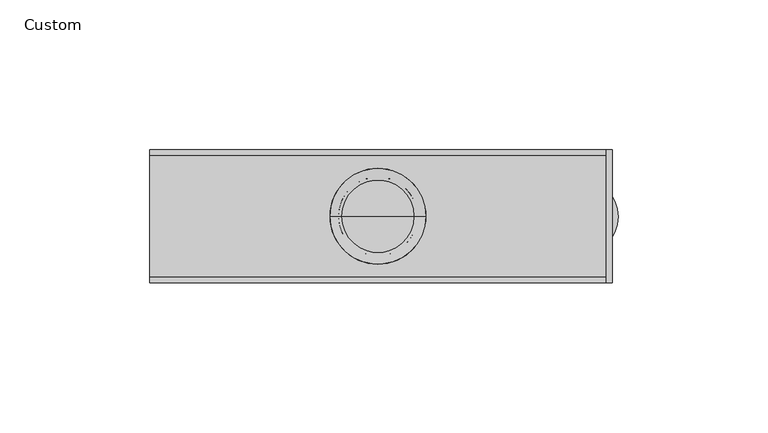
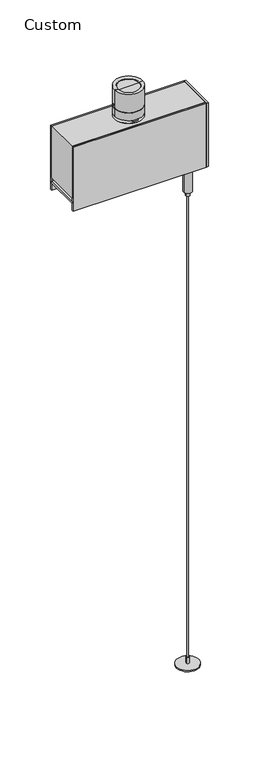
"""IFC4 building model written with IfcOpenShell, lengths in millimetres: light fixture geometry, Lighting-Pendant-Axis-Sculpt-Linear-Accent : Custom."""

from ifc_helpers import new_model, si_unit, point, frame, frame_2d, origin, origin_with_axes, place, context, project, spatial, polyline, circle_curve, ellipse_curve, trimmed, segment, composite_curve, outline, extrude, source, transform, mapped, element, save
from ifc_brep_helpers import plane_surface, cylinder_surface, revolved_surface, advanced_brep


def custom_30a6e671(model_context):
    return source(origin(), model_context, "Body", "SolidModel", [
        advanced_brep(
        [(-12.1749998, 0.0, 720.9971034), (12.1749998, 0.0, 720.9971034), (15.9999994, 0.0, 721.52002), (-15.9999994, 0.0, 721.52002), (-12.1749998, 0.0, 720.2033534), (12.1749998, 0.0, 720.2033534), (-14.0, 0.0, 720.2033534), (14.0, 0.0, 720.2033534), (-14.0, 0.0, 705.9033531), (14.0, 0.0, 705.9033531), (-12.4999997, 0.0, 705.9033531), (12.4999997, 0.0, 705.9033531), (-12.4999997, 0.0, 707.5033531), (12.4999997, 0.0, 707.5033531), (0.0, 0.0, 707.5033531), (-15.9999994, 0.0, 689.9033527), (15.9999994, 0.0, 689.9033527), (0.0, 0.0, 689.9033527), (-15.9999994, 0.0, 698.9033533), (15.9999994, 0.0, 698.9033533), (-15.2062494, 0.0, 698.9033533), (15.2062494, 0.0, 698.9033533), (-15.2062494, 0.0, 699.6971033), (15.2062494, 0.0, 699.6971033), (-15.9999994, 0.0, 699.6971033), (15.9999994, 0.0, 699.6971033)],
        [
            (0, 1, circle_curve(frame((0.0, 0.0, 720.9971034), z_axis=(0.0, 0.0, -1.0), x_axis=(1.0, 0.0, 0.0)), 12.1749998)),
            (1, 2),
            (2, 3, circle_curve(frame((0.0, 0.0, 721.52002), z_axis=(0.0, 0.0, 1.0), x_axis=(1.0, 0.0, 0.0)), 15.9999994)),
            (3, 0),
            (1, 0, circle_curve(frame((0.0, 0.0, 720.9971034), z_axis=(0.0, 0.0, -1.0), x_axis=(1.0, 0.0, 0.0)), 12.1749998)),
            (3, 2, circle_curve(frame((0.0, 0.0, 721.52002), z_axis=(0.0, 0.0, 1.0), x_axis=(1.0, 0.0, 0.0)), 15.9999994)),
            (4, 5, circle_curve(frame((0.0, 0.0, 720.2033534), z_axis=(0.0, 0.0, -1.0), x_axis=(1.0, 0.0, 0.0)), 12.1749998)),
            (5, 1),
            (0, 4),
            (5, 4, circle_curve(frame((0.0, 0.0, 720.2033534), z_axis=(0.0, 0.0, -1.0), x_axis=(1.0, 0.0, 0.0)), 12.1749998)),
            (6, 7, circle_curve(frame((0.0, 0.0, 720.2033534), z_axis=(0.0, 0.0, -1.0), x_axis=(1.0, 0.0, 0.0)), 14.0)),
            (7, 5),
            (4, 6),
            (7, 6, circle_curve(frame((0.0, 0.0, 720.2033534), z_axis=(0.0, 0.0, -1.0), x_axis=(1.0, 0.0, 0.0)), 14.0)),
            (8, 9, circle_curve(frame((0.0, 0.0, 705.9033531), z_axis=(0.0, 0.0, -1.0), x_axis=(1.0, 0.0, 0.0)), 14.0)),
            (9, 7),
            (6, 8),
            (9, 8, circle_curve(frame((0.0, 0.0, 705.9033531), z_axis=(0.0, 0.0, -1.0), x_axis=(1.0, 0.0, 0.0)), 14.0)),
            (10, 11, circle_curve(frame((0.0, 0.0, 705.9033531), z_axis=(0.0, 0.0, -1.0), x_axis=(1.0, 0.0, 0.0)), 12.4999997)),
            (11, 9),
            (8, 10),
            (11, 10, circle_curve(frame((0.0, 0.0, 705.9033531), z_axis=(0.0, 0.0, -1.0), x_axis=(1.0, 0.0, 0.0)), 12.4999997)),
            (12, 13, circle_curve(frame((0.0, 0.0, 707.5033531), z_axis=(0.0, 0.0, -1.0), x_axis=(1.0, 0.0, 0.0)), 12.4999997)),
            (13, 11),
            (10, 12),
            (13, 12, circle_curve(frame((0.0, 0.0, 707.5033531), z_axis=(0.0, 0.0, -1.0), x_axis=(1.0, 0.0, 0.0)), 12.4999997)),
            (14, 13),
            (12, 14),
            (15, 16, circle_curve(frame((0.0, 0.0, 689.9033527), z_axis=(0.0, 0.0, -1.0), x_axis=(1.0, 0.0, 0.0)), 15.9999994)),
            (16, 17),
            (17, 15),
            (16, 15, circle_curve(frame((0.0, 0.0, 689.9033527), z_axis=(0.0, 0.0, -1.0), x_axis=(1.0, 0.0, 0.0)), 15.9999994)),
            (18, 19, circle_curve(frame((0.0, 0.0, 698.9033533), z_axis=(0.0, 0.0, -1.0), x_axis=(1.0, 0.0, 0.0)), 15.9999994)),
            (19, 16),
            (15, 18),
            (19, 18, circle_curve(frame((0.0, 0.0, 698.9033533), z_axis=(0.0, 0.0, -1.0), x_axis=(1.0, 0.0, 0.0)), 15.9999994)),
            (20, 21, circle_curve(frame((0.0, 0.0, 698.9033533), z_axis=(0.0, 0.0, -1.0), x_axis=(1.0, 0.0, 0.0)), 15.2062494)),
            (21, 19),
            (18, 20),
            (21, 20, circle_curve(frame((0.0, 0.0, 698.9033533), z_axis=(0.0, 0.0, -1.0), x_axis=(1.0, 0.0, 0.0)), 15.2062494)),
            (22, 23, circle_curve(frame((0.0, 0.0, 699.6971033), z_axis=(0.0, 0.0, -1.0), x_axis=(1.0, 0.0, 0.0)), 15.2062494)),
            (23, 21),
            (20, 22),
            (23, 22, circle_curve(frame((0.0, 0.0, 699.6971033), z_axis=(0.0, 0.0, -1.0), x_axis=(1.0, 0.0, 0.0)), 15.2062494)),
            (24, 25, circle_curve(frame((0.0, 0.0, 699.6971033), z_axis=(0.0, 0.0, -1.0), x_axis=(1.0, 0.0, 0.0)), 15.9999994)),
            (25, 23),
            (22, 24),
            (25, 24, circle_curve(frame((0.0, 0.0, 699.6971033), z_axis=(0.0, 0.0, -1.0), x_axis=(1.0, 0.0, 0.0)), 15.9999994)),
            (2, 25),
            (24, 3),
        ],
        [
            revolved_surface(polyline([(15.9999994, 0.0, 721.52002), (12.1749998, 0.0, 720.9971034)]), (0.0, 0.0, 2923.1350231), (0.0, 0.0, 1.0)),
            revolved_surface(polyline([(12.1749998, 0.0, 720.9971034), (12.1749998, 0.0, 720.2033533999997)]), (0.0, 0.0, 2923.1350231), (0.0, 0.0, 1.0)),
            plane_surface(frame((0.0, 0.0, 720.2033534), z_axis=(0.0, 0.0, -1.0), x_axis=(1.0, 0.0, 0.0))),
            revolved_surface(polyline([(14.0, 0.0, 720.2033533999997), (14.0, 0.0, 705.9033531)]), (0.0, 0.0, 2923.1350231), (0.0, 0.0, 1.0)),
            plane_surface(frame((0.0, 0.0, 705.9033531), z_axis=(0.0, 0.0, 1.0), x_axis=(1.0, 0.0, 0.0))),
            cylinder_surface(frame((0.0, 0.0, 2923.1350231), z_axis=(0.0, 0.0, 1.0), x_axis=(1.0, 0.0, 0.0)), 12.4999997),
            plane_surface(frame((0.0, 0.0, 707.5033531), z_axis=(0.0, 0.0, 1.0), x_axis=(1.0, 0.0, 0.0))),
            plane_surface(frame((0.0, 0.0, 689.9033527), z_axis=(0.0, 0.0, -1.0), x_axis=(1.0, 0.0, 0.0))),
            cylinder_surface(frame((0.0, 0.0, 2923.1350231), z_axis=(0.0, 0.0, 1.0), x_axis=(1.0, 0.0, 0.0)), 15.9999994),
            plane_surface(frame((0.0, 0.0, 698.9033533), z_axis=(0.0, 0.0, 1.0), x_axis=(1.0, 0.0, 0.0))),
            cylinder_surface(frame((0.0, 0.0, 2923.1350231), z_axis=(0.0, 0.0, 1.0), x_axis=(1.0, 0.0, 0.0)), 15.2062494),
            plane_surface(frame((0.0, 0.0, 699.6971033), z_axis=(0.0, 0.0, -1.0), x_axis=(1.0, 0.0, 0.0))),
        ],
        [
            (0, [[1, 2, 3, 4]]),
            (0, [[5, -4, 6, -2]]),
            (1, [[7, 8, -1, 9]]),
            (1, [[10, -9, -5, -8]]),
            (2, [[11, 12, -7, 13]]),
            (2, [[14, -13, -10, -12]]),
            (3, [[15, 16, -11, 17]]),
            (3, [[18, -17, -14, -16]]),
            (4, [[19, 20, -15, 21]]),
            (4, [[22, -21, -18, -20]]),
            (5, [[23, 24, -19, 25]]),
            (5, [[26, -25, -22, -24]]),
            (6, [[27, -23, 28]]),
            (6, [[-28, -26, -27]]),
            (7, [[29, 30, 31]]),
            (7, [[32, -31, -30]]),
            (8, [[33, 34, -29, 35]]),
            (8, [[36, -35, -32, -34]]),
            (9, [[37, 38, -33, 39]]),
            (9, [[40, -39, -36, -38]]),
            (10, [[41, 42, -37, 43]]),
            (10, [[44, -43, -40, -42]]),
            (11, [[45, 46, -41, 47]]),
            (11, [[48, -47, -44, -46]]),
            (8, [[-3, 49, -45, 50]]),
            (8, [[-6, -50, -48, -49]]),
        ],
    ),
        advanced_brep(
        [(-12.4525096, 0.0, 719.3533539), (12.4525096, 0.0, 719.3533539), (4.8863176, 0.0, 707.5033531), (-4.8863176, 0.0, 707.5033531), (-13.2500003, 0.0, 719.3533539), (13.2500003, 0.0, 719.3533539), (-13.2203172, 0.0, 720.2033534), (13.2203172, 0.0, 720.2033534), (0.0, 0.0, 720.2033534), (-3.7500001, 0.0, 713.5104959), (3.7500001, 0.0, 713.5104959), (0.0, 0.0, 711.9033531), (-3.959774, 0.0, 707.5033531), (3.959774, 0.0, 707.5033531)],
        [
            (0, 1, circle_curve(frame((0.0, 0.0, 719.3533539), z_axis=(0.0, 0.0, -1.0), x_axis=(1.0, 0.0, 0.0)), 12.4525096)),
            (1, 2, circle_curve(frame((-55.2491331, 0.0, 754.2401648), z_axis=(0.0, 1.0, 0.0), x_axis=(0.8889199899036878, 0.0, -0.4580624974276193)), 76.1616833)),
            (2, 3, circle_curve(frame((0.0, 0.0, 707.5033531), z_axis=(0.0, 0.0, 1.0), x_axis=(1.0, 0.0, 0.0)), 4.8863176)),
            (3, 0, circle_curve(frame((55.2491331, 0.0, 754.2401648), z_axis=(0.0, 1.0, 0.0), x_axis=(-0.8889199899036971, 0.0, -0.45806249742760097)), 76.1616833)),
            (1, 0, circle_curve(frame((0.0, 0.0, 719.3533539), z_axis=(0.0, 0.0, -1.0), x_axis=(1.0, 0.0, 0.0)), 12.4525096)),
            (3, 2, circle_curve(frame((0.0, 0.0, 707.5033531), z_axis=(0.0, 0.0, 1.0), x_axis=(1.0, 0.0, 0.0)), 4.8863176)),
            (4, 5, circle_curve(frame((0.0, 0.0, 719.3533539), z_axis=(0.0, 0.0, -1.0), x_axis=(1.0, 0.0, 0.0)), 13.2500003)),
            (5, 1),
            (0, 4),
            (5, 4, circle_curve(frame((0.0, 0.0, 719.3533539), z_axis=(0.0, 0.0, -1.0), x_axis=(1.0, 0.0, 0.0)), 13.2500003)),
            (6, 7, circle_curve(frame((0.0, 0.0, 720.2033534), z_axis=(0.0, 0.0, -1.0), x_axis=(1.0, 0.0, 0.0)), 13.2203172)),
            (7, 5),
            (4, 6),
            (7, 6, circle_curve(frame((0.0, 0.0, 720.2033534), z_axis=(0.0, 0.0, -1.0), x_axis=(1.0, 0.0, 0.0)), 13.2203172)),
            (8, 7),
            (6, 8),
            (9, 10, circle_curve(frame((0.0, 0.0, 713.5104959), z_axis=(0.0, 0.0, -1.0), x_axis=(1.0, 0.0, 0.0)), 3.7500001)),
            (10, 11, circle_curve(frame((0.0626217, 0.0, 716.9358075), z_axis=(0.0, 1.0, 0.0), x_axis=(0.732662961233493, 0.0, -0.6805916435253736)), 5.0328441)),
            (11, 9, circle_curve(frame((-0.0626217, 0.0, 716.9358075), z_axis=(0.0, 1.0, 0.0), x_axis=(-0.7326629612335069, 0.0, -0.6805916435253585)), 5.0328441)),
            (10, 9, circle_curve(frame((0.0, 0.0, 713.5104959), z_axis=(0.0, 0.0, -1.0), x_axis=(1.0, 0.0, 0.0)), 3.7500001)),
            (12, 13, circle_curve(frame((0.0, 0.0, 707.5033531), z_axis=(0.0, 0.0, -1.0), x_axis=(1.0, 0.0, 0.0)), 3.959774)),
            (13, 10),
            (9, 12),
            (13, 12, circle_curve(frame((0.0, 0.0, 707.5033531), z_axis=(0.0, 0.0, -1.0), x_axis=(1.0, 0.0, 0.0)), 3.959774)),
            (2, 13),
            (12, 3),
        ],
        [
            revolved_surface(trimmed(ellipse_curve(frame((-55.2491331, 0.0, 754.2401648), z_axis=(0.0, -1.0, 0.0), x_axis=(0.8889199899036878, 0.0, -0.4580624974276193)), 76.1616833, 76.1616833), [point((4.8863176, 0.0, 707.5033531))], [point((12.4525096, 0.0, 719.3533539))], True, "CARTESIAN"), (0.0, 0.0, 2923.1350231), (0.0, 0.0, 1.0)),
            plane_surface(frame((0.0, 0.0, 719.3533539), z_axis=(0.0, 0.0, -1.0), x_axis=(1.0, 0.0, 0.0))),
            revolved_surface(polyline([(13.2500003, 0.0, 719.3533539), (13.2203172, 0.0, 720.2033534)]), (0.0, 0.0, 2923.1350231), (0.0, 0.0, 1.0)),
            plane_surface(frame((0.0, 0.0, 720.2033534), z_axis=(0.0, 0.0, 1.0), x_axis=(1.0, 0.0, 0.0))),
            revolved_surface(trimmed(ellipse_curve(frame((0.0626217, 0.0, 716.9358075), z_axis=(0.0, -1.0, 0.0), x_axis=(0.732662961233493, 0.0, -0.6805916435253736)), 5.0328441, 5.0328441), [point((0.0, 0.0, 711.9033531))], [point((3.7500001, 0.0, 713.5104959))], True, "CARTESIAN"), (0.0, 0.0, 2923.1350231), (0.0, 0.0, 1.0)),
            revolved_surface(polyline([(3.7500001, 0.0, 713.5104959), (3.959774, 0.0, 707.5033531)]), (0.0, 0.0, 2923.1350231), (0.0, 0.0, 1.0)),
            plane_surface(frame((0.0, 0.0, 707.5033531), z_axis=(0.0, 0.0, -1.0), x_axis=(1.0, 0.0, 0.0))),
        ],
        [
            (0, [[1, 2, 3, 4]]),
            (0, [[5, -4, 6, -2]]),
            (1, [[7, 8, -1, 9]]),
            (1, [[10, -9, -5, -8]]),
            (2, [[11, 12, -7, 13]]),
            (2, [[14, -13, -10, -12]]),
            (3, [[15, -11, 16]]),
            (3, [[-16, -14, -15]]),
            (4, [[17, 18, 19]]),
            (4, [[20, -19, -18]]),
            (5, [[21, 22, -17, 23]]),
            (5, [[24, -23, -20, -22]]),
            (6, [[-3, 25, -21, 26]]),
            (6, [[-6, -26, -24, -25]]),
        ],
    ),
        extrude(outline(composite_curve([segment(trimmed(circle_curve(frame_2d((-9.525, 692.94502)), 3.9750181), [point((-13.5000181, 692.94502))], [point((-5.5499819, 692.94502))], False, "CARTESIAN"), True, "CONTINUOUS"), segment(polyline([(-5.5499819, 692.94502), (-5.5499819, 686.59502), (-13.5000181, 686.59502), (-13.5000181, 692.94502)]), True, "CONTINUOUS")], self_intersect=False)), frame((-2.9999793, 0.0, 0.0), z_axis=(1.0, 0.0, 0.0), x_axis=(0.0, 1.0, 0.0)), (0.0, 0.0, 1.0), 5.9999586),
        advanced_brep(
        [(0.0, 0.0, 648.4400175), (0.0, -10.1695708, 648.4400175), (0.0, 10.1695708, 648.4400175), (0.0, 15.9999994, 686.59502), (0.0, -15.9999994, 686.59502), (0.0, 0.0, 686.59502), (0.0, 15.9999994, 685.0950188), (0.0, -15.9999994, 685.0950188), (0.0, 10.1695708, 685.0950188), (0.0, -10.1695708, 685.0950188)],
        [
            (0, 1),
            (1, 2, circle_curve(frame((0.0, 0.0, 648.4400175), z_axis=(0.0, 0.0, -1.0), x_axis=(0.0, -1.0, 0.0)), 10.1695708)),
            (2, 0),
            (2, 1, circle_curve(frame((0.0, 0.0, 648.4400175), z_axis=(0.0, 0.0, -1.0), x_axis=(0.0, -1.0, 0.0)), 10.1695708)),
            (3, 4, circle_curve(frame((0.0, 0.0, 686.59502), z_axis=(0.0, 0.0, 1.0), x_axis=(0.0, -1.0, 0.0)), 15.9999994)),
            (4, 5),
            (5, 3),
            (4, 3, circle_curve(frame((0.0, 0.0, 686.59502), z_axis=(0.0, 0.0, 1.0), x_axis=(0.0, -1.0, 0.0)), 15.9999994)),
            (6, 7, circle_curve(frame((0.0, 0.0, 685.0950188), z_axis=(0.0, 0.0, 1.0), x_axis=(0.0, -1.0, 0.0)), 15.9999994)),
            (7, 4),
            (3, 6),
            (7, 6, circle_curve(frame((0.0, 0.0, 685.0950188), z_axis=(0.0, 0.0, 1.0), x_axis=(0.0, -1.0, 0.0)), 15.9999994)),
            (8, 9, circle_curve(frame((0.0, 0.0, 685.0950188), z_axis=(0.0, 0.0, 1.0), x_axis=(0.0, -1.0, 0.0)), 10.1695708)),
            (9, 7),
            (6, 8),
            (9, 8, circle_curve(frame((0.0, 0.0, 685.0950188), z_axis=(0.0, 0.0, 1.0), x_axis=(0.0, -1.0, 0.0)), 10.1695708)),
            (1, 9),
            (8, 2),
        ],
        [
            plane_surface(frame((0.0, 0.0, 648.4400175), z_axis=(0.0, 0.0, -1.0), x_axis=(0.0, -1.0, 0.0))),
            plane_surface(frame((0.0, 0.0, 686.59502), z_axis=(0.0, 0.0, 1.0), x_axis=(0.0, -1.0, 0.0))),
            cylinder_surface(frame((0.0, 0.0, 3036.7518143), z_axis=(0.0, 0.0, -1.0), x_axis=(0.0, -1.0, 0.0)), 15.9999994),
            plane_surface(frame((0.0, 0.0, 685.0950188), z_axis=(0.0, 0.0, -1.0), x_axis=(0.0, -1.0, 0.0))),
            cylinder_surface(frame((0.0, 0.0, 3036.7518143), z_axis=(0.0, 0.0, -1.0), x_axis=(0.0, -1.0, 0.0)), 10.1695708),
        ],
        [
            (0, [[1, 2, 3]]),
            (0, [[-3, 4, -1]]),
            (1, [[5, 6, 7]]),
            (1, [[8, -7, -6]]),
            (2, [[9, 10, -5, 11]]),
            (2, [[12, -11, -8, -10]]),
            (3, [[13, 14, -9, 15]]),
            (3, [[16, -15, -12, -14]]),
            (4, [[-2, 17, -13, 18]]),
            (4, [[-4, -18, -16, -17]]),
        ],
    ),
        advanced_brep(
        [(62.9920001, 0.0, 604.4810805), (72.1359999, 0.0, 604.4810805), (72.1359999, 0.0, 570.5474987), (62.9920001, 0.0, 570.5474987), (59.6677367, 0.0, 609.6), (75.4602633, 0.0, 609.6), (65.2780001, 0.0, 565.4674991), (69.8499999, 0.0, 565.4674991), (67.564, 0.0, 565.4674991), (65.2780001, 0.0, 570.5474987), (69.8499999, 0.0, 570.5474987), (59.6677367, 0.0, 618.0455013), (75.4602633, 0.0, 618.0455013), (67.564, 0.0, 618.0455013)],
        [
            (0, 1, circle_curve(frame((67.564, 0.0, 604.4810805), z_axis=(0.0, 0.0, -1.0), x_axis=(1.0, 0.0, 0.0)), 4.5719999)),
            (1, 2),
            (2, 3, circle_curve(frame((67.564, 0.0, 570.5474987), z_axis=(0.0, 0.0, 1.0), x_axis=(1.0, 0.0, 0.0)), 4.5719999)),
            (3, 0),
            (1, 0, circle_curve(frame((67.564, 0.0, 604.4810805), z_axis=(0.0, 0.0, -1.0), x_axis=(1.0, 0.0, 0.0)), 4.5719999)),
            (3, 2, circle_curve(frame((67.564, 0.0, 570.5474987), z_axis=(0.0, 0.0, 1.0), x_axis=(1.0, 0.0, 0.0)), 4.5719999)),
            (4, 5, circle_curve(frame((67.564, 0.0, 609.6), z_axis=(0.0, 0.0, -1.0), x_axis=(1.0, 0.0, 0.0)), 7.8962633)),
            (5, 1),
            (0, 4),
            (5, 4, circle_curve(frame((67.564, 0.0, 609.6), z_axis=(0.0, 0.0, -1.0), x_axis=(1.0, 0.0, 0.0)), 7.8962633)),
            (6, 7, circle_curve(frame((67.564, 0.0, 565.4674991), z_axis=(0.0, 0.0, -1.0), x_axis=(1.0, 0.0, 0.0)), 2.2859999)),
            (7, 8),
            (8, 6),
            (7, 6, circle_curve(frame((67.564, 0.0, 565.4674991), z_axis=(0.0, 0.0, -1.0), x_axis=(1.0, 0.0, 0.0)), 2.2859999)),
            (9, 10, circle_curve(frame((67.564, 0.0, 570.5474987), z_axis=(0.0, 0.0, -1.0), x_axis=(1.0, 0.0, 0.0)), 2.2859999)),
            (10, 7),
            (6, 9),
            (10, 9, circle_curve(frame((67.564, 0.0, 570.5474987), z_axis=(0.0, 0.0, -1.0), x_axis=(1.0, 0.0, 0.0)), 2.2859999)),
            (2, 10),
            (9, 3),
            (11, 12, circle_curve(frame((67.564, 0.0, 618.0455013), z_axis=(0.0, 0.0, -1.0), x_axis=(1.0, 0.0, 0.0)), 7.8962633)),
            (12, 5),
            (4, 11),
            (12, 11, circle_curve(frame((67.564, 0.0, 618.0455013), z_axis=(0.0, 0.0, -1.0), x_axis=(1.0, 0.0, 0.0)), 7.8962633)),
            (13, 12),
            (11, 13),
        ],
        [
            cylinder_surface(frame((67.564, 0.0, 2761.4581012), z_axis=(0.0, 0.0, 1.0), x_axis=(1.0, 0.0, 0.0)), 4.5719999),
            revolved_surface(polyline([(72.1359999, 0.0, 604.4810805), (75.4602633, 0.0, 609.6)]), (67.564, 0.0, 2761.4581012), (0.0, 0.0, 1.0)),
            plane_surface(frame((67.564, 0.0, 565.4674991), z_axis=(0.0, 0.0, -1.0), x_axis=(1.0, 0.0, 0.0))),
            cylinder_surface(frame((67.564, 0.0, 2761.4581012), z_axis=(0.0, 0.0, 1.0), x_axis=(1.0, 0.0, 0.0)), 2.2859999),
            plane_surface(frame((67.564, 0.0, 570.5474987), z_axis=(0.0, 0.0, -1.0), x_axis=(1.0, 0.0, 0.0))),
            cylinder_surface(frame((67.564, 0.0, 2761.4581012), z_axis=(0.0, 0.0, 1.0), x_axis=(1.0, 0.0, 0.0)), 7.8962633),
            plane_surface(frame((67.564, 0.0, 618.0455013), z_axis=(0.0, 0.0, 1.0), x_axis=(1.0, 0.0, 0.0))),
        ],
        [
            (0, [[1, 2, 3, 4]]),
            (0, [[5, -4, 6, -2]]),
            (1, [[7, 8, -1, 9]]),
            (1, [[10, -9, -5, -8]]),
            (2, [[11, 12, 13]]),
            (2, [[14, -13, -12]]),
            (3, [[15, 16, -11, 17]]),
            (3, [[18, -17, -14, -16]]),
            (4, [[-3, 19, -15, 20]]),
            (4, [[-6, -20, -18, -19]]),
            (5, [[21, 22, -7, 23]]),
            (5, [[24, -23, -10, -22]]),
            (6, [[25, -21, 26]]),
            (6, [[-26, -24, -25]]),
        ],
    ),
        extrude(outline(composite_curve([segment(trimmed(circle_curve(frame_2d((67.564, 0.0)), 0.79375), [point((66.77025, 0.0))], [point((68.35775, 0.0))], False, "CARTESIAN"), True, "CONTINUOUS"), segment(trimmed(circle_curve(frame_2d((67.564, 0.0)), 0.79375), [point((68.35775, 0.0))], [point((66.77025, 0.0))], False, "CARTESIAN"), True, "CONTINUOUS")], self_intersect=False)), origin_with_axes(), (0.0, 0.0, 1.0), 565.4674991),
        extrude(outline(composite_curve([segment(trimmed(circle_curve(frame_2d((67.564, 0.0)), 12.7), [point((54.864, 0.0))], [point((80.264, 0.0))], False, "CARTESIAN"), True, "CONTINUOUS"), segment(trimmed(circle_curve(frame_2d((67.564, 0.0)), 12.7), [point((80.264, 0.0))], [point((54.864, 0.0))], False, "CARTESIAN"), True, "CONTINUOUS")], self_intersect=False)), origin_with_axes(), (0.0, 0.0, 1.0), 1.5875),
        extrude(outline(composite_curve([segment(trimmed(circle_curve(frame_2d((67.564, 0.0)), 1.5875), [point((65.9765, 0.0))], [point((69.1515, 0.0))], False, "CARTESIAN"), True, "CONTINUOUS"), segment(trimmed(circle_curve(frame_2d((67.564, 0.0)), 1.5875), [point((69.1515, 0.0))], [point((65.9765, 0.0))], False, "CARTESIAN"), True, "CONTINUOUS")], self_intersect=False)), frame((0.0, 0.0, 1.5875), z_axis=(0.0, 0.0, 1.0), x_axis=(1.0, 0.0, 0.0)), (0.0, 0.0, 1.0), 7.9375),
        extrude(outline(polyline([(76.2, -22.225), (76.2, 22.225), (78.2955, 22.225), (78.2955, -22.225), (76.2, -22.225)])), frame((0.0, 0.0, 609.6), z_axis=(0.0, 0.0, 1.0), x_axis=(1.0, 0.0, 0.0)), (0.0, 0.0, 1.0), 76.99502),
        advanced_brep(
        [(76.2, -20.1929994, 686.59502), (76.2, -20.1929994, 624.1683301), (76.2, 20.1929368, 624.1683301), (76.2, 20.1929368, 686.59502), (-76.2, -20.1929994, 624.1683301), (-76.2, -20.1929994, 686.59502), (-76.2, 20.1929368, 686.59502), (-76.2, 20.1929368, 624.1683301), (15.99946, 0.0, 686.59502), (-15.99946, 0.0, 686.59502), (-15.99946, 0.0, 626.21414), (15.99946, 0.0, 626.21414)],
        [
            (0, 1),
            (1, 2),
            (2, 3),
            (3, 0),
            (4, 5),
            (5, 6),
            (6, 7),
            (7, 4),
            (0, 5),
            (4, 1),
            (7, 2),
            (6, 3),
            (8, 9, circle_curve(frame((0.0, 0.0, 686.59502), z_axis=(0.0, 0.0, -1.0), x_axis=(1.0, 0.0, 0.0)), 15.99946)),
            (9, 8, circle_curve(frame((0.0, 0.0, 686.59502), z_axis=(0.0, 0.0, -1.0), x_axis=(1.0, 0.0, 0.0)), 15.99946)),
            (10, 11, circle_curve(frame((0.0, 0.0, 626.21414), z_axis=(0.0, 0.0, 1.0), x_axis=(1.0, 0.0, 0.0)), 15.99946)),
            (11, 10, circle_curve(frame((0.0, 0.0, 626.21414), z_axis=(0.0, 0.0, 1.0), x_axis=(1.0, 0.0, 0.0)), 15.99946)),
            (10, 9),
            (8, 11),
        ],
        [
            plane_surface(frame((76.2, -20.1929994, 686.59502), z_axis=(1.0, 0.0, 0.0), x_axis=(0.0, 0.0, -1.0))),
            plane_surface(frame((-76.2, -20.1929994, 686.59502), z_axis=(-1.0, 0.0, 0.0), x_axis=(0.0, 0.0, 1.0))),
            plane_surface(frame((76.2, -20.1929994, 686.59502), z_axis=(0.0, -1.0, 0.0), x_axis=(-1.0, 0.0, 0.0))),
            plane_surface(frame((76.2, -20.1929994, 624.1683301), z_axis=(0.0, 0.0, -1.0), x_axis=(-1.0, 0.0, 0.0))),
            plane_surface(frame((76.2, 20.1929368, 624.1683301), z_axis=(0.0, 1.0, 0.0), x_axis=(-1.0, 0.0, 0.0))),
            plane_surface(frame((76.2, 20.1929368, 686.59502), z_axis=(0.0, 0.0, 1.0), x_axis=(-1.0, 0.0, 0.0))),
            plane_surface(frame((15.99946, 0.0, 626.21414), z_axis=(0.0, 0.0, 1.0), x_axis=(0.0, -1.0, 0.0))),
            revolved_surface(polyline([(15.99946, 0.0, 686.59502), (15.99946, 0.0, 626.21414)]), (0.0, 0.0, 626.21414), (0.0, 0.0, 1.0)),
        ],
        [
            (0, [[1, 2, 3, 4]]),
            (1, [[5, 6, 7, 8]]),
            (2, [[-1, 9, -5, 10]]),
            (3, [[-2, -10, -8, 11]]),
            (4, [[-3, -11, -7, 12]]),
            (5, [[-4, -12, -6, -9], [13, 14]]),
            (6, [[15, 16]]),
            (7, [[-15, 17, -13, 18]]),
            (7, [[-16, -18, -14, -17]]),
        ],
    ),
        extrude(outline(polyline([(76.2, 20.1929994), (76.2, -20.1929994), (-76.2, -20.1929994), (-76.2, 20.1929994), (76.2, 20.1929994)])), frame((0.0, 0.0, 618.0455013), z_axis=(0.0, 0.0, 1.0), x_axis=(1.0, 0.0, 0.0)), (0.0, 0.0, 1.0), 2.0319968),
        extrude(outline(polyline([(76.2, -20.1929994), (76.2, -22.225), (-76.2, -22.225), (-76.2, -20.1929994), (76.2, -20.1929994)])), frame((0.0, 0.0, 609.6), z_axis=(0.0, 0.0, 1.0), x_axis=(1.0, 0.0, 0.0)), (0.0, 0.0, 1.0), 76.99502),
        extrude(outline(polyline([(76.2, 22.225), (76.2, 20.1929994), (-76.2, 20.1929994), (-76.2, 22.225), (76.2, 22.225)])), frame((0.0, 0.0, 609.6), z_axis=(0.0, 0.0, 1.0), x_axis=(1.0, 0.0, 0.0)), (0.0, 0.0, 1.0), 76.99502),
    ])


if __name__ == "__main__":
    model = new_model("IFC4")
    model_context = context("Model", 3, world=origin())
    ifc_project = project(units=[si_unit("LENGTHUNIT", "METRE", prefix="MILLI")], contexts=[model_context])
    site = spatial("IfcSite", under=ifc_project)
    building = spatial("IfcBuilding", under=site)
    placement = place(None, origin())
    custom_shape = custom_30a6e671(model_context)
    element("IfcLightFixture", 1, ObjectType="Lighting-Pendant-Axis-Sculpt-Linear-Accent : Custom", at=placement, inside=building, context=model_context, shape_type="MappedRepresentation", body=[
        mapped(custom_shape, transform((0.0, 0.0, 0.0), x_axis=(1.0, 0.0, 0.0), y_axis=(0.0, 1.0, 0.0), z_axis=(0.0, 0.0, 1.0))),
    ])
    save(model, "model.ifc")
